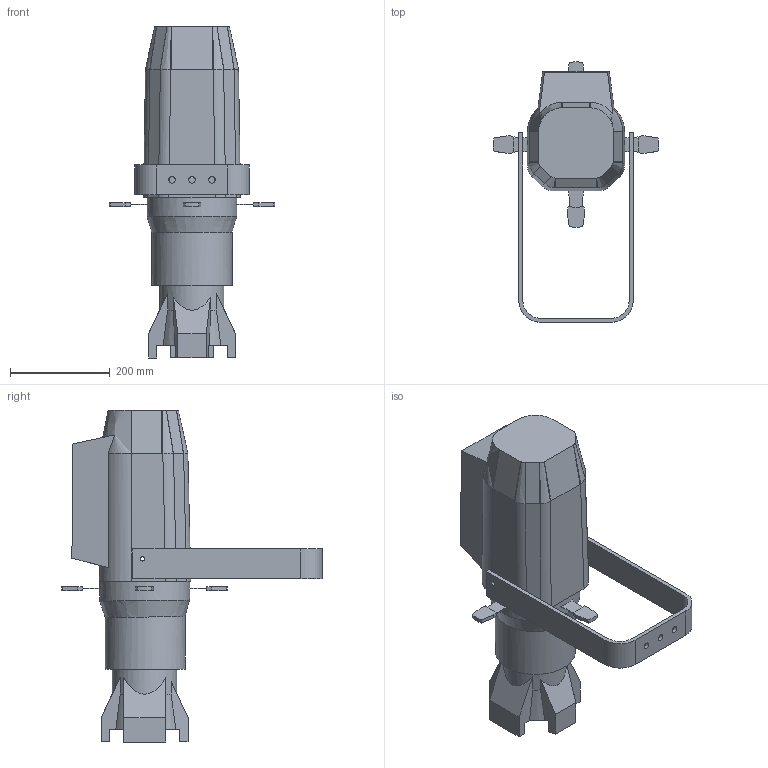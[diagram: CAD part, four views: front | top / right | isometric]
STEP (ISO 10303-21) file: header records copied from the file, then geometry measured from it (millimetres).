
FILE_DESCRIPTION(/* description */ (''),/* implementation_level */ '2;1');
FILE_NAME(/* name */ 'D:/dgooch/Documents/CADENG/PRO/Ovation Réve E-3/90/Ovation Rêve E-3_90.step',/* time_stamp */ '2021-03-18T15:54:05-04:00',/* author */ (''),/* organization */ (''),/* preprocessor_version */ 'ST-DEVELOPER v18.1',/* originating_system */ 'Autodesk Translation Framework v9.10.0.1330',/* authorisation */ '');
FILE_SCHEMA (('AUTOMOTIVE_DESIGN { 1 0 10303 214 3 1 1 }'));
Length unit declared in the file: millimetre
Products named in the file (3): OVATION REVE E-3; Main (1); Bracket_0
Assembly tree (2 placements, depth 2):
  OVATION REVE E-3
    Main (1)
    Bracket_0
Bounding box: 332.08 x 522.04 x 665.4 mm (x, y, z)
Volume: 18379084.7 mm3; surface area: 649682.2 mm2
Topology: 2 solids, 2 shells, 180 faces, 488 edges, 322 vertices
Faces by surface type: plane 107, cylinder 48, bspline 17, cone 8
Full cylindrical faces by diameter (mm): 8.525 x3, 13 x3, 129.5 x2, 160.603 x1, 180.084 x1
Entity records: 6556 total; most frequent: CARTESIAN_POINT 1939, ORIENTED_EDGE 976, DIRECTION 905, EDGE_CURVE 488, VERTEX_POINT 322, LINE 305, VECTOR 305, AXIS2_PLACEMENT_3D 300
